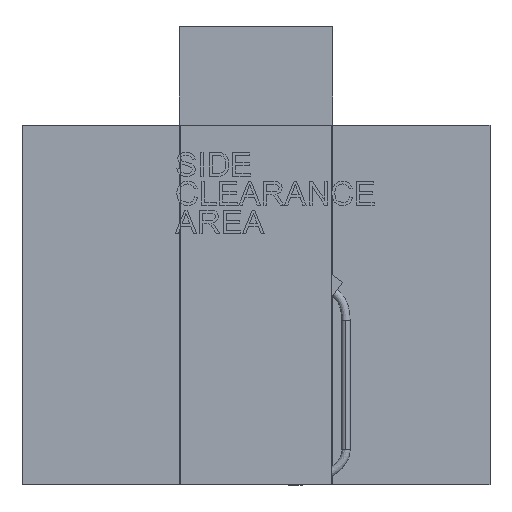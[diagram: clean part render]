
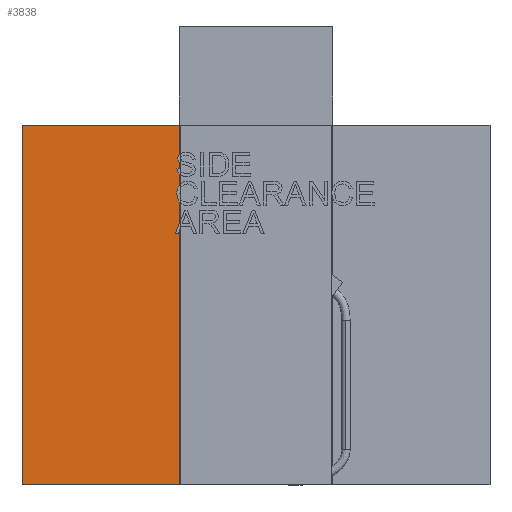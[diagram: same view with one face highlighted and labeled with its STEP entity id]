
A CAD part, left-side view. The second image highlights one B-rep face of the part: STEP entity #3838.
In plain terms, the highlighted planar face has unit normal (-1, 0, 0).
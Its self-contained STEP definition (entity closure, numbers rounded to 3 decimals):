
#3719=DIRECTION('',(0.,1.,0.));
#3720=VECTOR('',#3719,800.);
#3721=CARTESIAN_POINT('',(4615.998,-3495.078,-287.));
#3722=LINE('',#3721,#3720);
#3727=DIRECTION('',(0.,0.,-1.));
#3728=VECTOR('',#3727,1827.);
#3729=CARTESIAN_POINT('',(4615.998,-2695.078,1540.));
#3730=LINE('',#3729,#3728);
#3731=DIRECTION('',(0.,1.,0.));
#3732=VECTOR('',#3731,800.);
#3733=CARTESIAN_POINT('',(4615.998,-3495.078,1540.));
#3734=LINE('',#3733,#3732);
#3735=DIRECTION('',(0.,0.,1.));
#3736=VECTOR('',#3735,1827.);
#3737=CARTESIAN_POINT('',(4615.998,-3495.078,-287.));
#3738=LINE('',#3737,#3736);
#3743=CARTESIAN_POINT('',(4615.998,-2695.078,-287.));
#3744=VERTEX_POINT('',#3743);
#3749=CARTESIAN_POINT('',(4615.998,-2695.078,1540.));
#3750=VERTEX_POINT('',#3749);
#3751=CARTESIAN_POINT('',(4615.998,-3495.078,-287.));
#3752=VERTEX_POINT('',#3751);
#3753=CARTESIAN_POINT('',(4615.998,-3495.078,1540.));
#3754=VERTEX_POINT('',#3753);
#3827=CARTESIAN_POINT('',(4615.998,-2695.078,-287.));
#3828=DIRECTION('',(-1.,0.,0.));
#3829=DIRECTION('',(0.,-1.,0.));
#3830=AXIS2_PLACEMENT_3D('',#3827,#3828,#3829);
#3831=PLANE('',#3830);
#3832=ORIENTED_EDGE('',*,*,#3779,.F.);
#3833=ORIENTED_EDGE('',*,*,#3795,.F.);
#3834=ORIENTED_EDGE('',*,*,#3809,.F.);
#3835=ORIENTED_EDGE('',*,*,#3820,.T.);
#3836=EDGE_LOOP('',(#3832,#3833,#3834,#3835));
#3837=FACE_OUTER_BOUND('',#3836,.F.);
#3838=ADVANCED_FACE('',(#3837),#3831,.T.);
#3779=EDGE_CURVE('',#3750,#3744,#3730,.T.);
#3795=EDGE_CURVE('',#3754,#3750,#3734,.T.);
#3809=EDGE_CURVE('',#3752,#3754,#3738,.T.);
#3820=EDGE_CURVE('',#3752,#3744,#3722,.T.);
